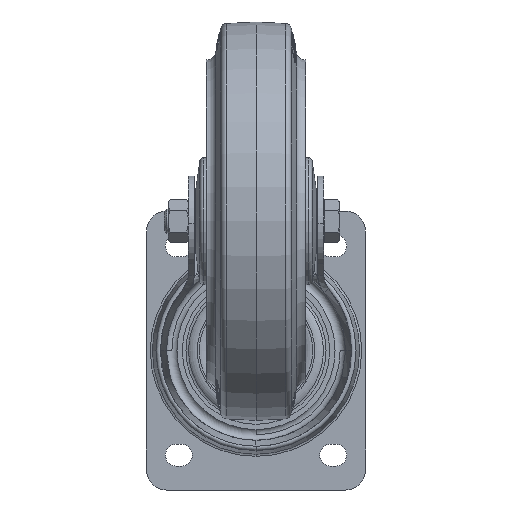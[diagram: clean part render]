
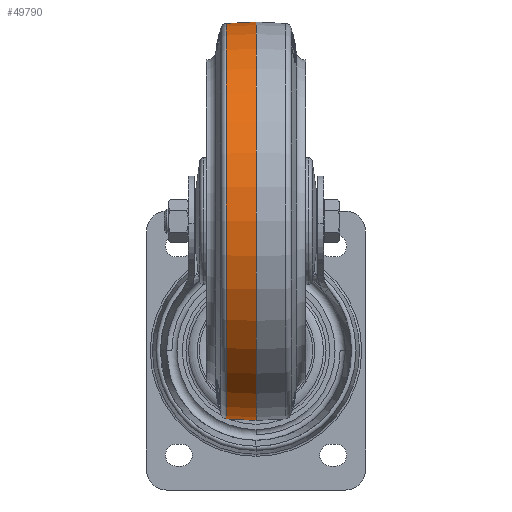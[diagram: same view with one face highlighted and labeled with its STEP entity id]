
A CAD part, front view. The second image highlights one B-rep face of the part: STEP entity #49790.
In plain terms, the highlighted conical face has half-angle 3 degrees and reference radius 99.611 mm.
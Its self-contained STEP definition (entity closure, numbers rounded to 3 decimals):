
#1 = CARTESIAN_POINT ( 'NONE',  ( -14.854, 99.222, 0. ) ) ;
#978 = DIRECTION ( 'NONE',  ( 0., -1., 0. ) ) ;
#2541 = VECTOR ( 'NONE', #18334, 1000. ) ;
#3163 = CARTESIAN_POINT ( 'NONE',  ( 0., -100., 0. ) ) ;
#8794 = CONICAL_SURFACE ( 'NONE', #141024, 99.611, 0.052 ) ;
#12067 = ORIENTED_EDGE ( 'NONE', *, *, #22213, .F. ) ;
#18334 = DIRECTION ( 'NONE',  ( -0.999, 0.052, 0. ) ) ;
#19896 = AXIS2_PLACEMENT_3D ( 'NONE', #151267, #72043, #147757 ) ;
#22213 = EDGE_CURVE ( 'NONE', #126044, #72409, #68880, .T. ) ;
#27729 = DIRECTION ( 'NONE',  ( 0., 1., 0. ) ) ;
#40248 = EDGE_CURVE ( 'NONE', #72409, #77628, #153242, .T. ) ;
#42975 = AXIS2_PLACEMENT_3D ( 'NONE', #54325, #67619, #978 ) ;
#49790 = ADVANCED_FACE ( 'NONE', ( #125197 ), #8794, .T. ) ;
#53507 = ORIENTED_EDGE ( 'NONE', *, *, #110681, .T. ) ;
#54325 = CARTESIAN_POINT ( 'NONE',  ( 0., 0., 0. ) ) ;
#56227 = CARTESIAN_POINT ( 'NONE',  ( -7.427, 0., 0. ) ) ;
#57699 = EDGE_CURVE ( 'NONE', #66573, #77628, #110358, .T. ) ;
#64291 = CARTESIAN_POINT ( 'NONE',  ( 0., 100., 0. ) ) ;
#66573 = VERTEX_POINT ( 'NONE', #64291 ) ;
#67619 = DIRECTION ( 'NONE',  ( -1., 0., 0. ) ) ;
#68880 = LINE ( 'NONE', #79194, #2541 ) ;
#72043 = DIRECTION ( 'NONE',  ( -1., 0., 0. ) ) ;
#72409 = VERTEX_POINT ( 'NONE', #142505 ) ;
#77628 = VERTEX_POINT ( 'NONE', #1 ) ;
#77767 = DIRECTION ( 'NONE',  ( -0.999, -0.052, 0. ) ) ;
#79194 = CARTESIAN_POINT ( 'NONE',  ( 0., -100., 0. ) ) ;
#93786 = VECTOR ( 'NONE', #77767, 1000. ) ;
#107737 = DIRECTION ( 'NONE',  ( 1., 0., 0. ) ) ;
#110358 = LINE ( 'NONE', #111977, #93786 ) ;
#110681 = EDGE_CURVE ( 'NONE', #126044, #66573, #151511, .T. ) ;
#111977 = CARTESIAN_POINT ( 'NONE',  ( 0., 100., 0. ) ) ;
#123422 = EDGE_LOOP ( 'NONE', ( #53507, #156692, #158666, #12067 ) ) ;
#125197 = FACE_OUTER_BOUND ( 'NONE', #123422, .T. ) ;
#126044 = VERTEX_POINT ( 'NONE', #3163 ) ;
#141024 = AXIS2_PLACEMENT_3D ( 'NONE', #56227, #107737, #27729 ) ;
#142505 = CARTESIAN_POINT ( 'NONE',  ( -14.854, -99.222, 0. ) ) ;
#147757 = DIRECTION ( 'NONE',  ( 0., -1., 0. ) ) ;
#151267 = CARTESIAN_POINT ( 'NONE',  ( -14.854, 0., 0. ) ) ;
#151511 = CIRCLE ( 'NONE', #42975, 100. ) ;
#153242 = CIRCLE ( 'NONE', #19896, 99.222 ) ;
#156692 = ORIENTED_EDGE ( 'NONE', *, *, #57699, .T. ) ;
#158666 = ORIENTED_EDGE ( 'NONE', *, *, #40248, .F. ) ;
